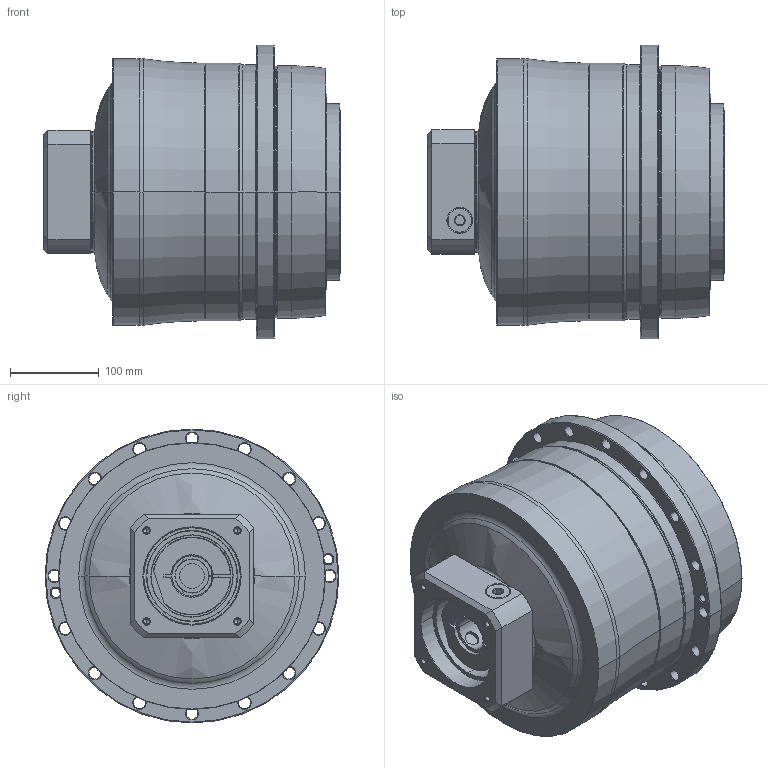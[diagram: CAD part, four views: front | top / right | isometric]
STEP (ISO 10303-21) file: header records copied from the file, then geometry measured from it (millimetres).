
FILE_DESCRIPTION((''),'2;1');
FILE_NAME('AH285_2ST_38-P0409900101_ASM','2016-08-16T',('d01943'),(''),'PRO/ENGINEER BY PARAMETRIC TECHNOLOGY CORPORATION, 2008410','PRO/ENGINEER BY PARAMETRIC TECHNOLOGY CORPORATION, 2008410','');
FILE_SCHEMA(('CONFIG_CONTROL_DESIGN'));
Length unit declared in the file: millimetre
Products named in the file (8): P0278800003; P0359800003; P1317800101; P0409900101; P0503900012; P0912701001; 21711422019; AH285_2ST_38-P0409900101_ASM
Assembly tree (7 placements, depth 2):
  AH285_2ST_38-P0409900101_ASM
    P0278800003
    P0359800003
    P1317800101
    P0409900101
    P0503900012
    P0912701001
    21711422019
Bounding box: 335.5 x 332 x 332 mm (x, y, z)
Volume: 17681874.1 mm3; surface area: 934632.7 mm2
Topology: 8 solids, 8 shells, 585 faces, 1329 edges, 777 vertices
Faces by surface type: cylinder 216, cone 192, plane 95, torus 66, bspline 16
Entity records: 20822 total; most frequent: CARTESIAN_POINT 7401, DIRECTION 3031, ORIENTED_EDGE 2566, EDGE_CURVE 1283, AXIS2_PLACEMENT_3D 1276, VERTEX_POINT 777, EDGE_LOOP 698, CIRCLE 692
